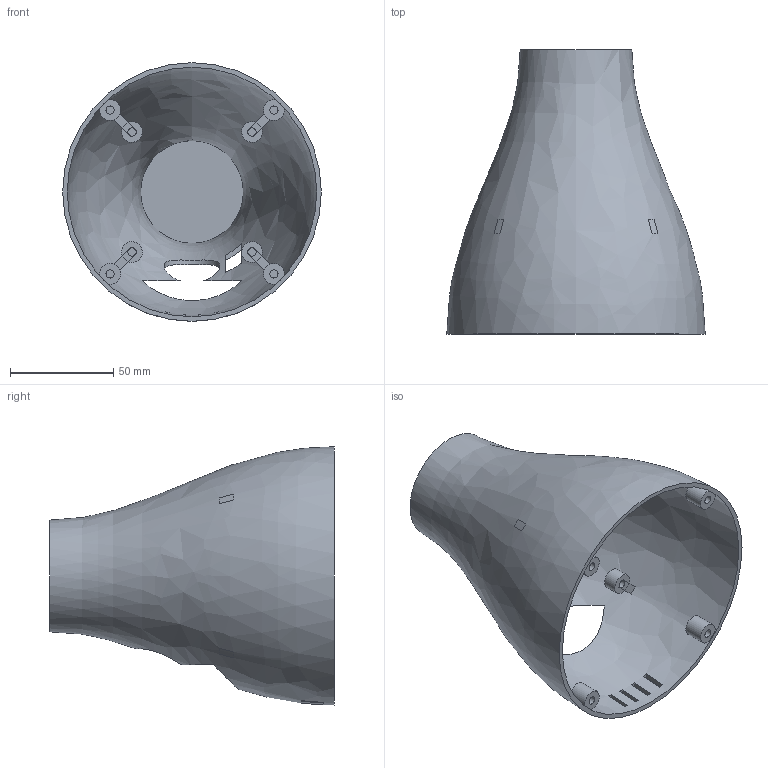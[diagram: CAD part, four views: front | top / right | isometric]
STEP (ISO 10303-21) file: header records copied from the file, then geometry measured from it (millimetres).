
FILE_DESCRIPTION(/* description */ ('125 front / 54 rear / 90 depth; 2.2 radial wall. Exact reference-type S-profile, open front, four front cassette fasteners, four accessible rear-cartridge fasteners. M3 nut pockets.'),/* implementation_level */ '2;1');
FILE_NAME(/* name */ '19 Serviceable gradual bell shell.step',/* time_stamp */ '2026-10-02T21:02:28+01:00',/* author */ (''),/* organization */ (''),/* preprocessor_version */ 'ST-DEVELOPER v20.2',/* originating_system */ 'Autodesk Translation Framework v15.15.0.0',/* authorisation */ '');
FILE_SCHEMA (('AUTOMOTIVE_DESIGN { 1 0 10303 214 3 1 1 }'));
Length unit declared in the file: millimetre
Products named in the file (1): 2026-10-02-21-02-28-228
Bounding box: 125 x 137.5 x 125 mm (x, y, z)
Volume: 89558.6 mm3; surface area: 85142.4 mm2
Topology: 1 solids, 1 shells, 106 faces, 251 edges, 165 vertices
Faces by surface type: plane 82, cylinder 18, bspline 6
Full cylindrical faces by diameter (mm): 4 x8
Entity records: 3937 total; most frequent: CARTESIAN_POINT 1447, DIRECTION 508, ORIENTED_EDGE 502, EDGE_CURVE 251, AXIS2_PLACEMENT_3D 210, VERTEX_POINT 165, EDGE_LOOP 136, CIRCLE 109
